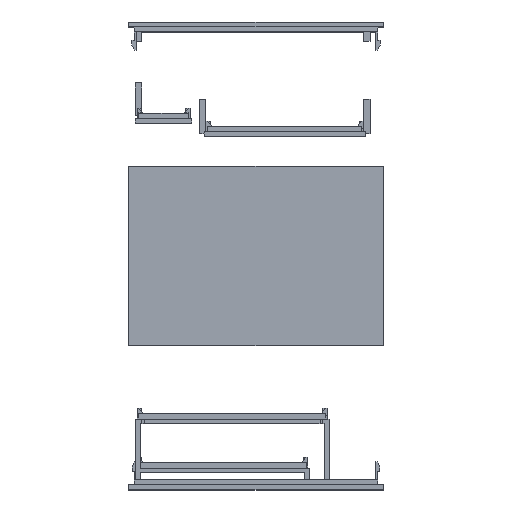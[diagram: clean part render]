
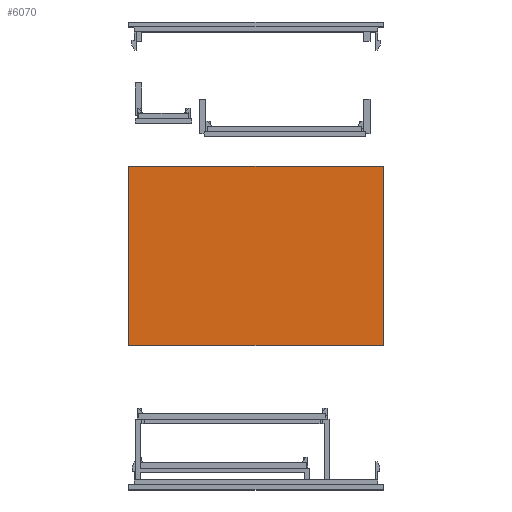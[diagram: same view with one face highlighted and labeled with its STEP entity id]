
A CAD part, top view. The second image highlights one B-rep face of the part: STEP entity #6070.
In plain terms, the highlighted planar face has unit normal (0, 0, 1).
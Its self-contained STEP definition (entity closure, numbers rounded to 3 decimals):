
#5539 = VERTEX_POINT('',#5540);
#5540 = CARTESIAN_POINT('',(0.,3.,100.));
#5547 = PLANE('',#5548);
#5548 = AXIS2_PLACEMENT_3D('',#5549,#5550,#5551);
#5549 = CARTESIAN_POINT('',(0.,3.,0.));
#5550 = DIRECTION('',(1.,0.,0.));
#5551 = DIRECTION('',(0.,0.,1.));
#5559 = PLANE('',#5560);
#5560 = AXIS2_PLACEMENT_3D('',#5561,#5562,#5563);
#5561 = CARTESIAN_POINT('',(0.,3.,0.));
#5562 = DIRECTION('',(0.,1.,0.));
#5563 = DIRECTION('',(0.,0.,1.));
#5600 = VERTEX_POINT('',#5601);
#5601 = CARTESIAN_POINT('',(0.,112.,100.));
#5615 = PLANE('',#5616);
#5616 = AXIS2_PLACEMENT_3D('',#5617,#5618,#5619);
#5617 = CARTESIAN_POINT('',(0.,112.,0.));
#5618 = DIRECTION('',(0.,1.,0.));
#5619 = DIRECTION('',(0.,0.,1.));
#5627 = EDGE_CURVE('',#5539,#5600,#5628,.T.);
#5628 = SURFACE_CURVE('',#5629,(#5633,#5640),.PCURVE_S1.);
#5629 = LINE('',#5630,#5631);
#5630 = CARTESIAN_POINT('',(0.,3.,100.));
#5631 = VECTOR('',#5632,1.);
#5632 = DIRECTION('',(0.,1.,0.));
#5633 = PCURVE('',#5547,#5634);
#5634 = DEFINITIONAL_REPRESENTATION('',(#5635),#5639);
#5635 = LINE('',#5636,#5637);
#5636 = CARTESIAN_POINT('',(100.,0.));
#5637 = VECTOR('',#5638,1.);
#5638 = DIRECTION('',(0.,-1.));
#5639 = ( GEOMETRIC_REPRESENTATION_CONTEXT(2) 
PARAMETRIC_REPRESENTATION_CONTEXT() REPRESENTATION_CONTEXT('2D SPACE',''
  ) );
#5640 = PCURVE('',#5641,#5646);
#5641 = PLANE('',#5642);
#5642 = AXIS2_PLACEMENT_3D('',#5643,#5644,#5645);
#5643 = CARTESIAN_POINT('',(0.,3.,100.));
#5644 = DIRECTION('',(0.,0.,1.));
#5645 = DIRECTION('',(1.,0.,0.));
#5646 = DEFINITIONAL_REPRESENTATION('',(#5647),#5651);
#5647 = LINE('',#5648,#5649);
#5648 = CARTESIAN_POINT('',(0.,0.));
#5649 = VECTOR('',#5650,1.);
#5650 = DIRECTION('',(0.,1.));
#5651 = ( GEOMETRIC_REPRESENTATION_CONTEXT(2) 
PARAMETRIC_REPRESENTATION_CONTEXT() REPRESENTATION_CONTEXT('2D SPACE',''
  ) );
#5908 = EDGE_CURVE('',#5539,#5909,#5911,.T.);
#5909 = VERTEX_POINT('',#5910);
#5910 = CARTESIAN_POINT('',(155.,3.,100.));
#5911 = SURFACE_CURVE('',#5912,(#5916,#5923),.PCURVE_S1.);
#5912 = LINE('',#5913,#5914);
#5913 = CARTESIAN_POINT('',(0.,3.,100.));
#5914 = VECTOR('',#5915,1.);
#5915 = DIRECTION('',(1.,0.,0.));
#5916 = PCURVE('',#5559,#5917);
#5917 = DEFINITIONAL_REPRESENTATION('',(#5918),#5922);
#5918 = LINE('',#5919,#5920);
#5919 = CARTESIAN_POINT('',(100.,0.));
#5920 = VECTOR('',#5921,1.);
#5921 = DIRECTION('',(0.,1.));
#5922 = ( GEOMETRIC_REPRESENTATION_CONTEXT(2) 
PARAMETRIC_REPRESENTATION_CONTEXT() REPRESENTATION_CONTEXT('2D SPACE',''
  ) );
#5923 = PCURVE('',#5641,#5924);
#5924 = DEFINITIONAL_REPRESENTATION('',(#5925),#5929);
#5925 = LINE('',#5926,#5927);
#5926 = CARTESIAN_POINT('',(0.,0.));
#5927 = VECTOR('',#5928,1.);
#5928 = DIRECTION('',(1.,0.));
#5929 = ( GEOMETRIC_REPRESENTATION_CONTEXT(2) 
PARAMETRIC_REPRESENTATION_CONTEXT() REPRESENTATION_CONTEXT('2D SPACE',''
  ) );
#5945 = PLANE('',#5946);
#5946 = AXIS2_PLACEMENT_3D('',#5947,#5948,#5949);
#5947 = CARTESIAN_POINT('',(155.,3.,0.));
#5948 = DIRECTION('',(1.,0.,0.));
#5949 = DIRECTION('',(0.,0.,1.));
#6070 = ADVANCED_FACE('',(#6071),#5641,.T.);
#6071 = FACE_BOUND('',#6072,.T.);
#6072 = EDGE_LOOP('',(#6073,#6074,#6075,#6098));
#6073 = ORIENTED_EDGE('',*,*,#5627,.F.);
#6074 = ORIENTED_EDGE('',*,*,#5908,.T.);
#6075 = ORIENTED_EDGE('',*,*,#6076,.T.);
#6076 = EDGE_CURVE('',#5909,#6077,#6079,.T.);
#6077 = VERTEX_POINT('',#6078);
#6078 = CARTESIAN_POINT('',(155.,112.,100.));
#6079 = SURFACE_CURVE('',#6080,(#6084,#6091),.PCURVE_S1.);
#6080 = LINE('',#6081,#6082);
#6081 = CARTESIAN_POINT('',(155.,3.,100.));
#6082 = VECTOR('',#6083,1.);
#6083 = DIRECTION('',(0.,1.,0.));
#6084 = PCURVE('',#5641,#6085);
#6085 = DEFINITIONAL_REPRESENTATION('',(#6086),#6090);
#6086 = LINE('',#6087,#6088);
#6087 = CARTESIAN_POINT('',(155.,0.));
#6088 = VECTOR('',#6089,1.);
#6089 = DIRECTION('',(0.,1.));
#6090 = ( GEOMETRIC_REPRESENTATION_CONTEXT(2) 
PARAMETRIC_REPRESENTATION_CONTEXT() REPRESENTATION_CONTEXT('2D SPACE',''
  ) );
#6091 = PCURVE('',#5945,#6092);
#6092 = DEFINITIONAL_REPRESENTATION('',(#6093),#6097);
#6093 = LINE('',#6094,#6095);
#6094 = CARTESIAN_POINT('',(100.,0.));
#6095 = VECTOR('',#6096,1.);
#6096 = DIRECTION('',(0.,-1.));
#6097 = ( GEOMETRIC_REPRESENTATION_CONTEXT(2) 
PARAMETRIC_REPRESENTATION_CONTEXT() REPRESENTATION_CONTEXT('2D SPACE',''
  ) );
#6098 = ORIENTED_EDGE('',*,*,#6099,.F.);
#6099 = EDGE_CURVE('',#5600,#6077,#6100,.T.);
#6100 = SURFACE_CURVE('',#6101,(#6105,#6112),.PCURVE_S1.);
#6101 = LINE('',#6102,#6103);
#6102 = CARTESIAN_POINT('',(0.,112.,100.));
#6103 = VECTOR('',#6104,1.);
#6104 = DIRECTION('',(1.,0.,0.));
#6105 = PCURVE('',#5641,#6106);
#6106 = DEFINITIONAL_REPRESENTATION('',(#6107),#6111);
#6107 = LINE('',#6108,#6109);
#6108 = CARTESIAN_POINT('',(0.,109.));
#6109 = VECTOR('',#6110,1.);
#6110 = DIRECTION('',(1.,0.));
#6111 = ( GEOMETRIC_REPRESENTATION_CONTEXT(2) 
PARAMETRIC_REPRESENTATION_CONTEXT() REPRESENTATION_CONTEXT('2D SPACE',''
  ) );
#6112 = PCURVE('',#5615,#6113);
#6113 = DEFINITIONAL_REPRESENTATION('',(#6114),#6118);
#6114 = LINE('',#6115,#6116);
#6115 = CARTESIAN_POINT('',(100.,0.));
#6116 = VECTOR('',#6117,1.);
#6117 = DIRECTION('',(0.,1.));
#6118 = ( GEOMETRIC_REPRESENTATION_CONTEXT(2) 
PARAMETRIC_REPRESENTATION_CONTEXT() REPRESENTATION_CONTEXT('2D SPACE',''
  ) );
